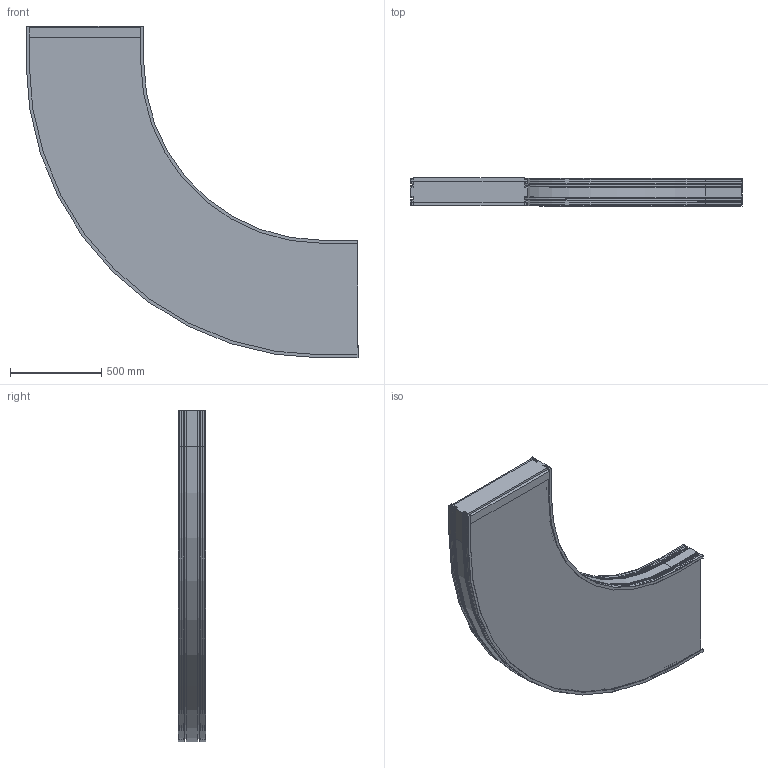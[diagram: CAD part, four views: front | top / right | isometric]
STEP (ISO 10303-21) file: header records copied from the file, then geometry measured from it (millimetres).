
FILE_DESCRIPTION (( 'STEP AP203' ), '1' );
FILE_NAME ('F2-2400-C90.STEP', '2009-02-16T12:23:30', ( 'faber' ), ( '' ), 'SwSTEP 2.0', 'SolidWorks 2008', '' );
FILE_SCHEMA (( 'CONFIG_CONTROL_DESIGN' ));
Length unit declared in the file: millimetre
Products named in the file (3): Tapis_2400; Courbe_  2400; F2-2400-C90
Assembly tree (3 placements, depth 2):
  F2-2400-C90
    Courbe_  2400
    Tapis_2400  x2
Bounding box: 1823.5 x 152.88 x 1823.5 mm (x, y, z)
Volume: 180890848.9 mm3; surface area: 5482873 mm2
Topology: 3 solids, 3 shells, 190 faces, 552 edges, 368 vertices
Faces by surface type: plane 148, cylinder 42
Entity records: 6273 total; most frequent: CARTESIAN_POINT 1066, ORIENTED_EDGE 1056, DIRECTION 984, EDGE_CURVE 528, VECTOR 444, LINE 444, VERTEX_POINT 352, AXIS2_PLACEMENT_3D 270
